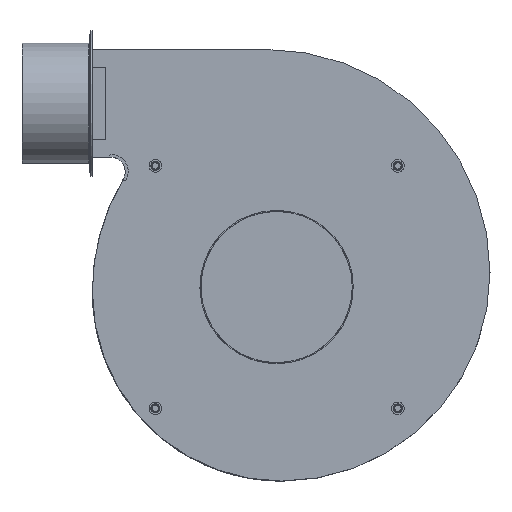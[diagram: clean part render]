
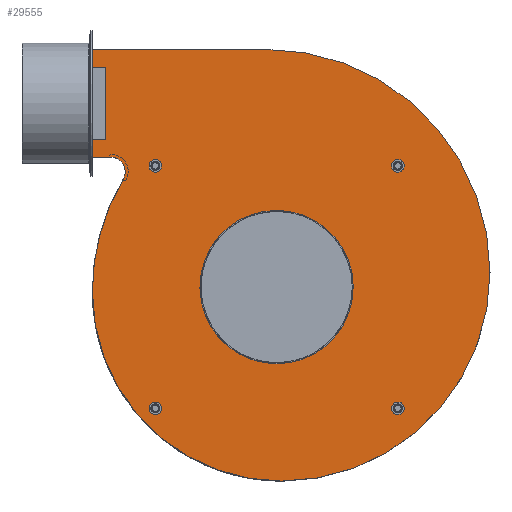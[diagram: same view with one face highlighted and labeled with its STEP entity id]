
A CAD part, top view. The second image highlights one B-rep face of the part: STEP entity #29555.
In plain terms, the highlighted planar face has unit normal (0, 0, 1).
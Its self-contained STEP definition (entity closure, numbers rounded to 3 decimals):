
#140=PLANE('',#30949);
#1061=CIRCLE('',#30905,215.);
#1062=CIRCLE('',#30907,195.);
#1063=CIRCLE('',#30909,227.);
#1065=CIRCLE('',#30912,230.);
#1066=CIRCLE('',#30914,6.5);
#1067=CIRCLE('',#30916,6.5);
#1068=CIRCLE('',#30918,6.5);
#1069=CIRCLE('',#30920,6.5);
#1070=CIRCLE('',#30922,79.);
#1071=CIRCLE('',#30924,15.);
#1619=FACE_BOUND('',#5151,.T.);
#1620=FACE_BOUND('',#5152,.T.);
#1621=FACE_BOUND('',#5153,.T.);
#1622=FACE_BOUND('',#5154,.T.);
#1623=FACE_BOUND('',#5155,.T.);
#3599=FACE_OUTER_BOUND('',#5150,.T.);
#5150=EDGE_LOOP('',(#22820,#22821,#22822,#22823,#22824,#22825,#22826,#22827));
#5151=EDGE_LOOP('',(#22828));
#5152=EDGE_LOOP('',(#22829));
#5153=EDGE_LOOP('',(#22830));
#5154=EDGE_LOOP('',(#22831));
#5155=EDGE_LOOP('',(#22832));
#6796=LINE('',#50287,#9840);
#6797=LINE('',#50290,#9841);
#6798=LINE('',#50291,#9842);
#9840=VECTOR('',#33825,10.);
#9841=VECTOR('',#33828,10.);
#9842=VECTOR('',#33829,10.);
#13744=VERTEX_POINT('',#50156);
#13745=VERTEX_POINT('',#50157);
#13746=VERTEX_POINT('',#50162);
#13747=VERTEX_POINT('',#50166);
#13749=VERTEX_POINT('',#50172);
#13750=VERTEX_POINT('',#50176);
#13751=VERTEX_POINT('',#50179);
#13752=VERTEX_POINT('',#50182);
#13753=VERTEX_POINT('',#50185);
#13754=VERTEX_POINT('',#50188);
#13755=VERTEX_POINT('',#50191);
#13779=VERTEX_POINT('',#50285);
#13780=VERTEX_POINT('',#50289);
#17070=EDGE_CURVE('',#13744,#13745,#1061,.T.);
#17074=EDGE_CURVE('',#13745,#13746,#1062,.T.);
#17075=EDGE_CURVE('',#13746,#13747,#1063,.T.);
#17078=EDGE_CURVE('',#13749,#13744,#1065,.T.);
#17080=EDGE_CURVE('',#13750,#13750,#1066,.T.);
#17081=EDGE_CURVE('',#13751,#13751,#1067,.T.);
#17082=EDGE_CURVE('',#13752,#13752,#1068,.T.);
#17083=EDGE_CURVE('',#13753,#13753,#1069,.T.);
#17084=EDGE_CURVE('',#13754,#13754,#1070,.T.);
#17085=EDGE_CURVE('',#13747,#13755,#1071,.T.);
#17133=EDGE_CURVE('',#13779,#13749,#6796,.T.);
#17134=EDGE_CURVE('',#13780,#13779,#6797,.T.);
#17135=EDGE_CURVE('',#13755,#13780,#6798,.T.);
#22820=ORIENTED_EDGE('',*,*,#17078,.F.);
#22821=ORIENTED_EDGE('',*,*,#17133,.F.);
#22822=ORIENTED_EDGE('',*,*,#17134,.F.);
#22823=ORIENTED_EDGE('',*,*,#17135,.F.);
#22824=ORIENTED_EDGE('',*,*,#17085,.F.);
#22825=ORIENTED_EDGE('',*,*,#17075,.F.);
#22826=ORIENTED_EDGE('',*,*,#17074,.F.);
#22827=ORIENTED_EDGE('',*,*,#17070,.F.);
#22828=ORIENTED_EDGE('',*,*,#17084,.F.);
#22829=ORIENTED_EDGE('',*,*,#17083,.T.);
#22830=ORIENTED_EDGE('',*,*,#17082,.T.);
#22831=ORIENTED_EDGE('',*,*,#17081,.T.);
#22832=ORIENTED_EDGE('',*,*,#17080,.T.);
#29555=ADVANCED_FACE('',(#3599,#1619,#1620,#1621,#1622,#1623),#140,.T.);
#30905=AXIS2_PLACEMENT_3D('',#50158,#33686,#33687);
#30907=AXIS2_PLACEMENT_3D('',#50164,#33693,#33694);
#30909=AXIS2_PLACEMENT_3D('',#50167,#33697,#33698);
#30912=AXIS2_PLACEMENT_3D('',#50173,#33704,#33705);
#30914=AXIS2_PLACEMENT_3D('',#50177,#33709,#33710);
#30916=AXIS2_PLACEMENT_3D('',#50180,#33713,#33714);
#30918=AXIS2_PLACEMENT_3D('',#50183,#33717,#33718);
#30920=AXIS2_PLACEMENT_3D('',#50186,#33721,#33722);
#30922=AXIS2_PLACEMENT_3D('',#50189,#33725,#33726);
#30924=AXIS2_PLACEMENT_3D('',#50192,#33729,#33730);
#30949=AXIS2_PLACEMENT_3D('',#50288,#33826,#33827);
#33686=DIRECTION('center_axis',(0.,0.,-1.));
#33687=DIRECTION('ref_axis',(0.,1.,0.));
#33693=DIRECTION('center_axis',(0.,0.,-1.));
#33694=DIRECTION('ref_axis',(0.807,-0.59,0.));
#33697=DIRECTION('center_axis',(0.,0.,-1.));
#33698=DIRECTION('ref_axis',(1.,-0.004,0.));
#33704=DIRECTION('center_axis',(0.,0.,-1.));
#33705=DIRECTION('ref_axis',(-1.,0.,0.));
#33709=DIRECTION('center_axis',(0.,0.,-1.));
#33710=DIRECTION('ref_axis',(1.,0.,0.));
#33713=DIRECTION('center_axis',(0.,0.,-1.));
#33714=DIRECTION('ref_axis',(0.,1.,0.));
#33717=DIRECTION('center_axis',(0.,0.,-1.));
#33718=DIRECTION('ref_axis',(-1.,0.,0.));
#33721=DIRECTION('center_axis',(0.,0.,-1.));
#33722=DIRECTION('ref_axis',(0.,-1.,0.));
#33725=DIRECTION('center_axis',(0.,0.,1.));
#33726=DIRECTION('ref_axis',(0.019,-1.,0.));
#33729=DIRECTION('center_axis',(0.,0.,1.));
#33730=DIRECTION('ref_axis',(0.,1.,0.));
#33825=DIRECTION('',(1.,0.,0.));
#33826=DIRECTION('center_axis',(0.,0.,1.));
#33827=DIRECTION('ref_axis',(1.,0.,0.));
#33828=DIRECTION('',(0.,1.,0.));
#33829=DIRECTION('',(-1.,0.,0.));
#50156=CARTESIAN_POINT('',(220.,15.,102.));
#50157=CARTESIAN_POINT('',(5.,-200.,102.));
#50158=CARTESIAN_POINT('Origin',(5.,15.,102.));
#50162=CARTESIAN_POINT('',(-189.999,-4.502,102.));
#50164=CARTESIAN_POINT('Origin',(5.,-5.,102.));
#50166=CARTESIAN_POINT('',(-158.106,111.333,102.));
#50167=CARTESIAN_POINT('Origin',(37.001,-4.696,102.));
#50172=CARTESIAN_POINT('',(-10.,245.,102.));
#50173=CARTESIAN_POINT('Origin',(-10.,15.,102.));
#50176=CARTESIAN_POINT('',(-118.5,125.,102.));
#50177=CARTESIAN_POINT('Origin',(-125.,125.,102.));
#50179=CARTESIAN_POINT('',(-125.,-118.5,102.));
#50180=CARTESIAN_POINT('Origin',(-125.,-125.,102.));
#50182=CARTESIAN_POINT('',(118.5,-125.,102.));
#50183=CARTESIAN_POINT('Origin',(125.,-125.,102.));
#50185=CARTESIAN_POINT('',(125.,118.5,102.));
#50186=CARTESIAN_POINT('Origin',(125.,125.,102.));
#50188=CARTESIAN_POINT('',(-1.522,78.985,102.));
#50189=CARTESIAN_POINT('Origin',(0.,0.,102.));
#50191=CARTESIAN_POINT('',(-170.998,134.,102.));
#50192=CARTESIAN_POINT('Origin',(-170.998,119.,102.));
#50285=CARTESIAN_POINT('',(-190.,245.,102.));
#50287=CARTESIAN_POINT('',(-190.,245.,102.));
#50288=CARTESIAN_POINT('Origin',(-6.296,39.366,102.));
#50289=CARTESIAN_POINT('',(-190.,134.,102.));
#50290=CARTESIAN_POINT('',(-190.,240.,102.));
#50291=CARTESIAN_POINT('',(-164.482,134.,102.));
